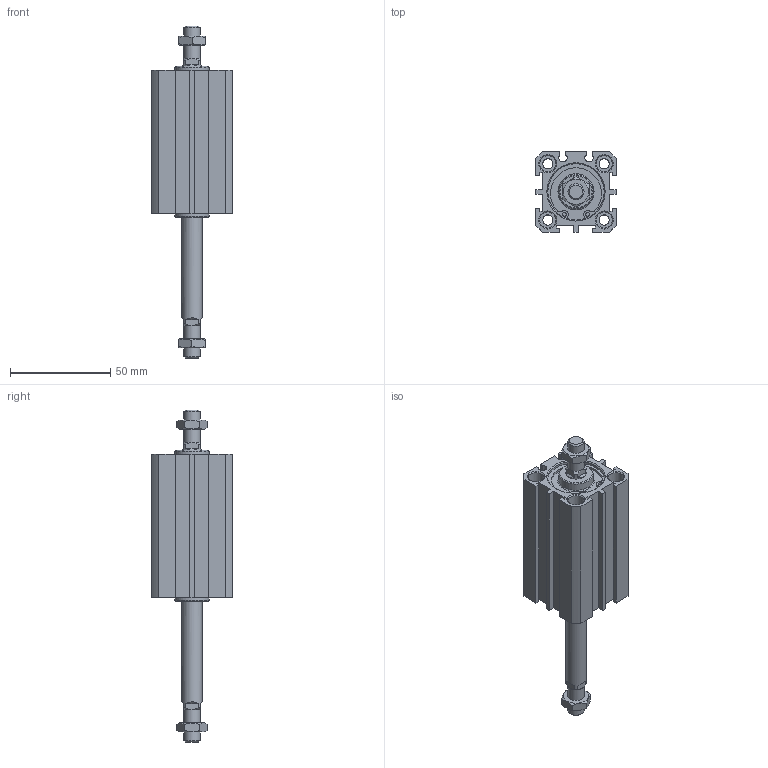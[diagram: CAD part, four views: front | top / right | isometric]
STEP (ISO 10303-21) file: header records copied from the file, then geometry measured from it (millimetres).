
FILE_DESCRIPTION((''),'2;1');
FILE_NAME('I:\3D電子目錄\氣缸\JDD\JDD-B\JDD25-B\JDD25x50-B.stp','2007-02-27T13:53:47',('662F206'),(''),'Autodesk Inventor 10','Autodesk Inventor 10','');
FILE_SCHEMA(('AUTOMOTIVE_DESIGN { 1 0 10303 214 1 1 1 1 }'));
Length unit declared in the file: millimetre
Products named in the file (3): JDD25-B; R 形環 28
Assembly tree (3 placements, depth 2):
  JDD25-B
    JDD25-B
    R 形環 28  x2
Bounding box: 40 x 40 x 165.2 mm (x, y, z)
Volume: 97232.2 mm3; surface area: 29658.5 mm2
Topology: 3 solids, 3 shells, 192 faces, 454 edges, 294 vertices
Faces by surface type: plane 108, cylinder 50, cone 26, bspline 6, torus 2
Full cylindrical faces by diameter (mm): 1.5 x2, 1.9 x4, 5.1 x4, 8 x12, 10 x2, 17 x2, 28 x4, 29.4 x2
Entity records: 4989 total; most frequent: CARTESIAN_POINT 1022, DIRECTION 812, ORIENTED_EDGE 724, EDGE_CURVE 362, AXIS2_PLACEMENT_3D 310, EDGE_LOOP 272, VERTEX_POINT 266, VECTOR 192
